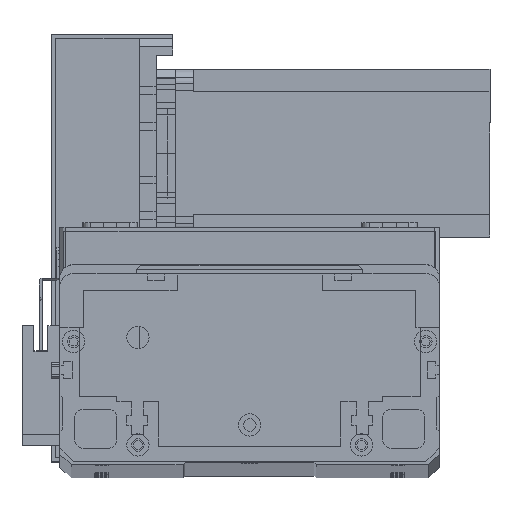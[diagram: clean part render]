
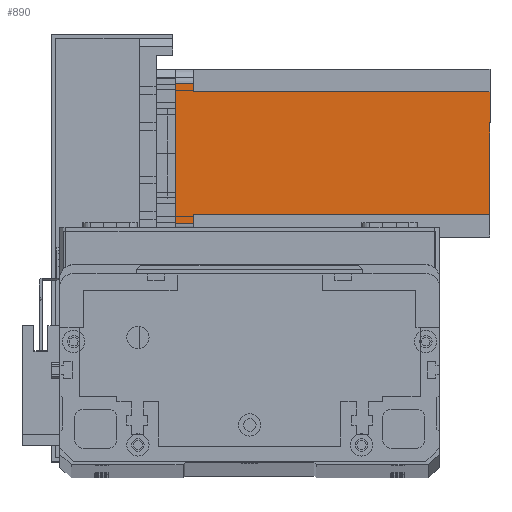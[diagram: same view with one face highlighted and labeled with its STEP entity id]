
A CAD part, top view. The second image highlights one B-rep face of the part: STEP entity #890.
In plain terms, the highlighted planar face has unit normal (0, 0, 1) as drawn and (0, -1, 0) by its records, which use the part's own axes.
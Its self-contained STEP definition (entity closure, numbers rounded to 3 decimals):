
#88 = ORIENTED_EDGE ( 'NONE', *, *, #1908, .F. ) ;
#134 = EDGE_CURVE ( 'NONE', #23040, #18411, #15394, .T. ) ;
#883 = ORIENTED_EDGE ( 'NONE', *, *, #29879, .T. ) ;
#890 = ADVANCED_FACE ( 'NONE', ( #8585 ), #20791, .T. ) ;
#1102 = ORIENTED_EDGE ( 'NONE', *, *, #134, .F. ) ;
#1908 = EDGE_CURVE ( 'NONE', #24557, #22618, #25398, .T. ) ;
#2457 = CARTESIAN_POINT ( 'NONE',  ( 8., 0., -6.5 ) ) ;
#2846 = CARTESIAN_POINT ( 'NONE',  ( 8., 0., -112.5 ) ) ;
#3097 = ORIENTED_EDGE ( 'NONE', *, *, #22134, .T. ) ;
#3828 = CARTESIAN_POINT ( 'NONE',  ( 8., 0., -6.5 ) ) ;
#4088 = VECTOR ( 'NONE', #20699, 1000. ) ;
#4384 = VECTOR ( 'NONE', #18992, 1000. ) ;
#5144 = LINE ( 'NONE', #28383, #4384 ) ;
#5450 = DIRECTION ( 'NONE',  ( 0., 0., 1. ) ) ;
#6292 = CARTESIAN_POINT ( 'NONE',  ( 52., 0., -6.5 ) ) ;
#7036 = ORIENTED_EDGE ( 'NONE', *, *, #20689, .F. ) ;
#7444 = CARTESIAN_POINT ( 'NONE',  ( 52., 0., -6.5 ) ) ;
#7465 = DIRECTION ( 'NONE',  ( -1., 0., 0. ) ) ;
#7845 = CARTESIAN_POINT ( 'NONE',  ( 55., 0., -112.5 ) ) ;
#8041 = CARTESIAN_POINT ( 'NONE',  ( 52., 0., -112.5 ) ) ;
#8585 = FACE_OUTER_BOUND ( 'NONE', #27851, .T. ) ;
#8750 = CARTESIAN_POINT ( 'NONE',  ( 5., 0., 0. ) ) ;
#9021 = ORIENTED_EDGE ( 'NONE', *, *, #29072, .T. ) ;
#11360 = DIRECTION ( 'NONE',  ( 1., 0., 0. ) ) ;
#11441 = CARTESIAN_POINT ( 'NONE',  ( 0., 0., 0. ) ) ;
#11853 = CARTESIAN_POINT ( 'NONE',  ( 55., 0., 0. ) ) ;
#11924 = CARTESIAN_POINT ( 'NONE',  ( 5., 0., -112.5 ) ) ;
#12872 = VECTOR ( 'NONE', #27138, 1000. ) ;
#13613 = LINE ( 'NONE', #8041, #12872 ) ;
#14035 = ORIENTED_EDGE ( 'NONE', *, *, #28685, .T. ) ;
#14351 = VERTEX_POINT ( 'NONE', #17187 ) ;
#14807 = VECTOR ( 'NONE', #17959, 1000. ) ;
#15394 = LINE ( 'NONE', #11441, #19556 ) ;
#16694 = VERTEX_POINT ( 'NONE', #2846 ) ;
#16855 = CARTESIAN_POINT ( 'NONE',  ( 5., 0., -6.5 ) ) ;
#17187 = CARTESIAN_POINT ( 'NONE',  ( 55., 0., -6.5 ) ) ;
#17269 = VECTOR ( 'NONE', #5450, 1000. ) ;
#17597 = LINE ( 'NONE', #11924, #23257 ) ;
#17902 = ORIENTED_EDGE ( 'NONE', *, *, #26409, .F. ) ;
#17959 = DIRECTION ( 'NONE',  ( 1., 0., 0. ) ) ;
#18411 = VERTEX_POINT ( 'NONE', #11853 ) ;
#18992 = DIRECTION ( 'NONE',  ( 0., 0., 1. ) ) ;
#19176 = DIRECTION ( 'NONE',  ( 0., 0., -1. ) ) ;
#19556 = VECTOR ( 'NONE', #11360, 1000. ) ;
#20632 = DIRECTION ( 'NONE',  ( 0., 0., -1. ) ) ;
#20687 = DIRECTION ( 'NONE',  ( 0., -1., 0. ) ) ;
#20689 = EDGE_CURVE ( 'NONE', #16694, #24557, #5144, .T. ) ;
#20699 = DIRECTION ( 'NONE',  ( 1., 0., 0. ) ) ;
#20791 = PLANE ( 'NONE',  #21116 ) ;
#21116 = AXIS2_PLACEMENT_3D ( 'NONE', #21828, #20687, #20632 ) ;
#21828 = CARTESIAN_POINT ( 'NONE',  ( 0., 0., -112.5 ) ) ;
#21905 = VERTEX_POINT ( 'NONE', #7444 ) ;
#22134 = EDGE_CURVE ( 'NONE', #16694, #29798, #28182, .T. ) ;
#22618 = VERTEX_POINT ( 'NONE', #16855 ) ;
#23040 = VERTEX_POINT ( 'NONE', #8750 ) ;
#23257 = VECTOR ( 'NONE', #19176, 1000. ) ;
#24557 = VERTEX_POINT ( 'NONE', #2457 ) ;
#25398 = LINE ( 'NONE', #3828, #26119 ) ;
#25935 = CARTESIAN_POINT ( 'NONE',  ( 52., 0., -112.5 ) ) ;
#26119 = VECTOR ( 'NONE', #7465, 1000. ) ;
#26409 = EDGE_CURVE ( 'NONE', #21905, #29798, #13613, .T. ) ;
#27138 = DIRECTION ( 'NONE',  ( 0., 0., -1. ) ) ;
#27851 = EDGE_LOOP ( 'NONE', ( #14035, #9021, #1102, #883, #88, #7036, #3097, #17902 ) ) ;
#28182 = LINE ( 'NONE', #29697, #14807 ) ;
#28383 = CARTESIAN_POINT ( 'NONE',  ( 8., 0., -112.5 ) ) ;
#28685 = EDGE_CURVE ( 'NONE', #21905, #14351, #28708, .T. ) ;
#28708 = LINE ( 'NONE', #6292, #4088 ) ;
#29072 = EDGE_CURVE ( 'NONE', #14351, #18411, #30512, .T. ) ;
#29697 = CARTESIAN_POINT ( 'NONE',  ( 0., 0., -112.5 ) ) ;
#29798 = VERTEX_POINT ( 'NONE', #25935 ) ;
#29879 = EDGE_CURVE ( 'NONE', #23040, #22618, #17597, .T. ) ;
#30512 = LINE ( 'NONE', #7845, #17269 ) ;
